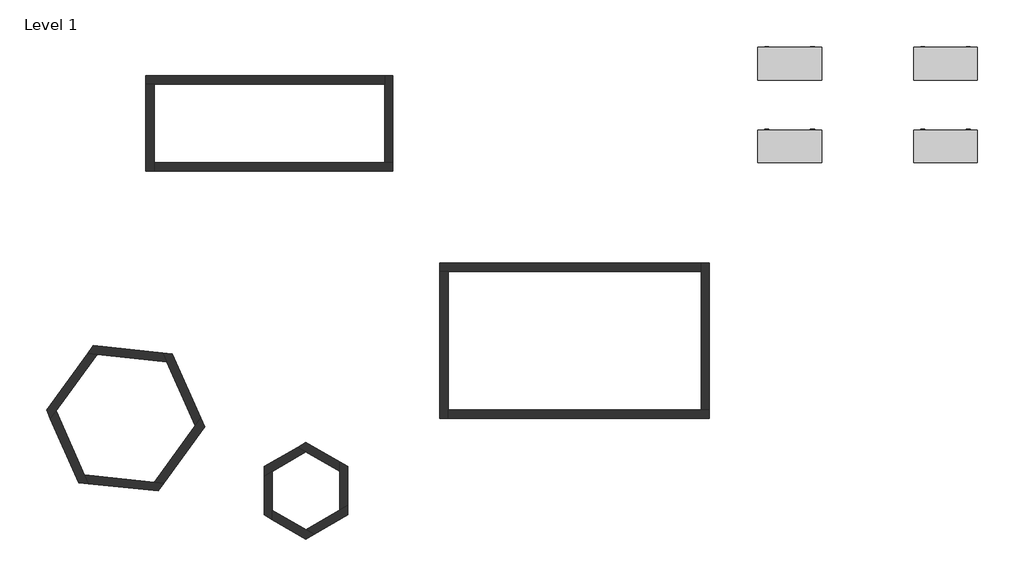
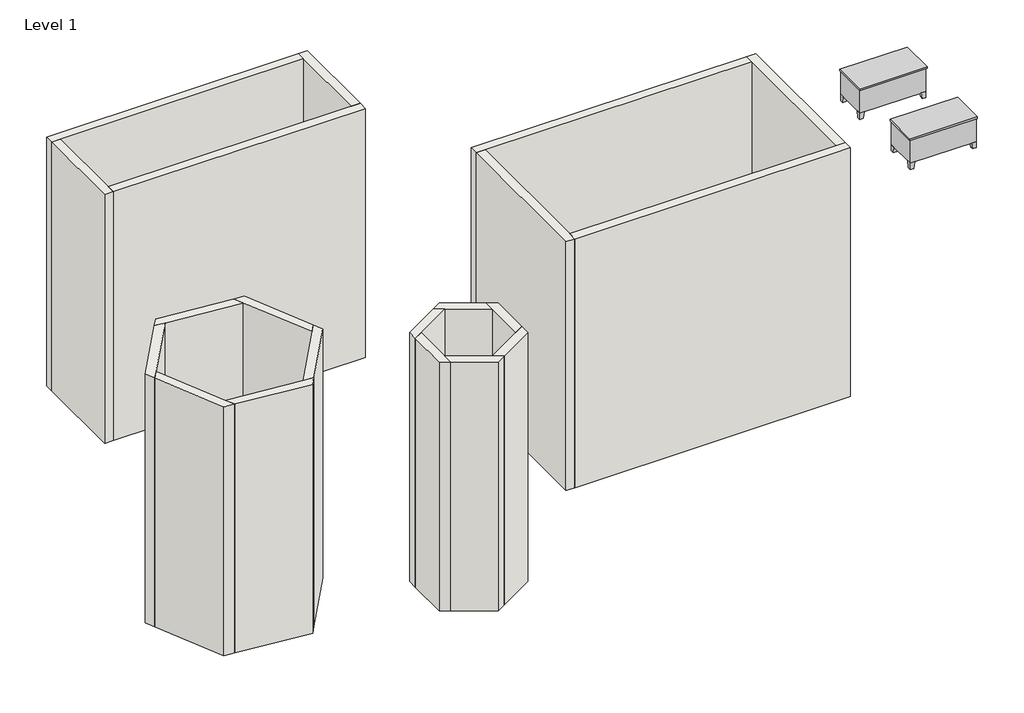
# One storey: 20 walls, 4 furniture elements.
"""IFC4 building model written with IfcOpenShell, lengths in millimetres."""

import ifcopenshell
import ifcopenshell.guid

model = None  # the IFC model being written
_history = None  # IfcOwnerHistory: only IFC2X3 demands one
_inside = {}  # id of a spatial element -> (the spatial element, [elements in it])
_under = {}  # id of a project, library or spatial element -> (it, [spatial elements below it])
_declared = {}  # id of a project -> (the project, [libraries it declares])
_typed = {}  # id of a type object -> (the type object, [elements of that type])
_made_of = {}  # id of a material, layer set ... -> (it, [elements and type objects made of it])


def new_model(schema):
    """Start an empty IFC model of exactly this schema.

    Asked for "IFC4X3", IfcOpenShell would pick the latest addendum, in which some entities
    have other attributes; the version numbers below select the first issue.
    IFC2X3 requires an IfcOwnerHistory on every rooted entity: one is made here for all.
    """
    global model, _history
    if schema == "IFC4X3":
        model = ifcopenshell.file(schema_version=(4, 3, 0, 0))
    else:
        model = ifcopenshell.file(schema=schema)
    _inside.clear()
    _under.clear()
    _declared.clear()
    _typed.clear()
    _made_of.clear()
    _history = None
    if model.schema == "IFC2X3":
        org = make("IfcOrganization", Name="unknown")
        user = make(
            "IfcPersonAndOrganization",
            ThePerson=make("IfcPerson", FamilyName="unknown"),
            TheOrganization=org,
        )
        app = make(
            "IfcApplication",
            ApplicationDeveloper=org,
            Version="unknown",
            ApplicationFullName="unknown",
            ApplicationIdentifier="unknown",
        )
        _history = make(
            "IfcOwnerHistory",
            OwningUser=user,
            OwningApplication=app,
            ChangeAction="ADDED",
            CreationDate=0,
        )
    return model


def make(cls, **values):
    """One entity of the class cls with the attributes given. An attribute that is None is left unset."""
    return model.create_entity(
        cls, **{name: value for name, value in values.items() if value is not None}
    )


def rooted(cls, **values):
    """An entity with a GlobalId (a new one), such as an element, a storey or a relation."""
    return make(cls, GlobalId=ifcopenshell.guid.new(), OwnerHistory=_history, **values)


def si_unit(unit_type, name, prefix=None):
    """IfcSIUnit, for example si_unit("LENGTHUNIT", "METRE", prefix="MILLI")."""
    return make("IfcSIUnit", UnitType=unit_type, Prefix=prefix, Name=name)


def assignment(units):
    """IfcUnitAssignment: the units of a project."""
    return None if units is None else make("IfcUnitAssignment", Units=units)


def point(xyz):
    """IfcCartesianPoint."""
    return None if xyz is None else make("IfcCartesianPoint", Coordinates=xyz)


def direction(xyz):
    """IfcDirection."""
    return None if xyz is None else make("IfcDirection", DirectionRatios=xyz)


def frame(location, z_axis=None, x_axis=None):
    """IfcAxis2Placement3D, a coordinate frame: its origin and axes. An axis left out is left unset."""
    return make(
        "IfcAxis2Placement3D",
        Location=point(location),
        Axis=direction(z_axis),
        RefDirection=direction(x_axis),
    )


def origin():
    """The frame at (0, 0, 0) with its axes left unset."""
    return frame((0.0, 0.0, 0.0))


def place(relative_to, where):
    """IfcLocalPlacement: puts the frame where relative to a parent placement (None: the world)."""
    return make(
        "IfcLocalPlacement", PlacementRelTo=relative_to, RelativePlacement=where
    )


def context(
    kind, dimensions, precision=None, world=None, true_north=None, identifier=None
):
    """IfcGeometricRepresentationContext, for example the 3D "Model" context."""
    return make(
        "IfcGeometricRepresentationContext",
        ContextIdentifier=identifier,
        ContextType=kind,
        CoordinateSpaceDimension=dimensions,
        Precision=precision,
        WorldCoordinateSystem=world,
        TrueNorth=true_north,
    )


def project(units=None, contexts=None):
    """IfcProject with its units and contexts."""
    return rooted(
        "IfcProject",
        Name="project",
        RepresentationContexts=contexts,
        UnitsInContext=assignment(units),
    )


def spatial(cls, under=None, at=None, **own):
    """A site, building, storey or space (cls), placed at a placement, below another one or the project."""
    s = rooted(cls, ObjectPlacement=at, **own)
    if under is not None:
        _under.setdefault(under.id(), (under, []))[1].append(s)
    return s


def polyline(points):
    """IfcPolyline through the points."""
    return make("IfcPolyline", Points=[point(p) for p in points])


def outline(outer, holes=None, kind="AREA"):
    """IfcArbitraryClosedProfileDef: a profile drawn as a closed curve; with holes, ...WithVoids."""
    if holes is None:
        return make("IfcArbitraryClosedProfileDef", ProfileType=kind, OuterCurve=outer)
    return make(
        "IfcArbitraryProfileDefWithVoids",
        ProfileType=kind,
        OuterCurve=outer,
        InnerCurves=holes,
    )


def extrude(swept, where, along, depth):
    """IfcExtrudedAreaSolid: the profile swept, set in the frame where, extruded along a direction by depth."""
    return make(
        "IfcExtrudedAreaSolid",
        SweptArea=swept,
        Position=where,
        ExtrudedDirection=direction(along),
        Depth=depth,
    )


def faces_of(points, faces, orient=None, outer=None):
    """IfcFace entities. A face is a list of loops; a loop is a list of indices into points, from 0.

    orient and outer hold one flag for each loop. By default every Orientation is true, the
    first loop of a face is its IfcFaceOuterBound and the others are IfcFaceBound.
    """
    made = []
    for i, loops in enumerate(faces):
        bounds = []
        for j, loop in enumerate(loops):
            is_outer = j == 0 if outer is None else outer[i][j]
            bounds.append(
                make(
                    "IfcFaceOuterBound" if is_outer else "IfcFaceBound",
                    Bound=make("IfcPolyLoop", Polygon=[points[k] for k in loop]),
                    Orientation=True if orient is None else orient[i][j],
                )
            )
        made.append(make("IfcFace", Bounds=bounds))
    return made


def faceted_brep(points, faces, orient=None, outer=None, voids=None):
    """IfcFacetedBrep: a solid bounded by flat faces; with voids (closed shells), ...WithVoids."""
    shared = [point(p) for p in points]
    hull = make("IfcClosedShell", CfsFaces=faces_of(shared, faces, orient, outer))
    if voids is None:
        return make("IfcFacetedBrep", Outer=hull)
    return make(
        "IfcFacetedBrepWithVoids",
        Outer=hull,
        Voids=[
            make(cls, CfsFaces=faces_of(shared, fs, o, b)) for cls, fs, o, b in voids
        ],
    )


def shape(context_of_items, identifier, shape_type, items):
    """IfcShapeRepresentation: the items that make up one representation, for example the "Body"."""
    return make(
        "IfcShapeRepresentation",
        ContextOfItems=context_of_items,
        RepresentationIdentifier=identifier,
        RepresentationType=shape_type,
        Items=items,
    )


def source(mapping_origin, context_of_items, identifier, shape_type, items):
    """IfcRepresentationMap: a shape defined once, which mapped items show again and again."""
    return make(
        "IfcRepresentationMap",
        MappingOrigin=mapping_origin,
        MappedRepresentation=shape(context_of_items, identifier, shape_type, items),
    )


def transform(
    local_origin,
    x_axis=None,
    y_axis=None,
    z_axis=None,
    scale=None,
    scale2=None,
    scale3=None,
    uniform=True,
):
    """IfcCartesianTransformationOperator3D, or its non-uniform kind. x_axis, y_axis, z_axis: its Axis1, 2, 3."""
    if uniform:
        return make(
            "IfcCartesianTransformationOperator3D",
            Axis1=direction(x_axis),
            Axis2=direction(y_axis),
            LocalOrigin=point(local_origin),
            Scale=scale,
            Axis3=direction(z_axis),
        )
    return make(
        "IfcCartesianTransformationOperator3DnonUniform",
        Axis1=direction(x_axis),
        Axis2=direction(y_axis),
        LocalOrigin=point(local_origin),
        Scale=scale,
        Axis3=direction(z_axis),
        Scale2=scale2,
        Scale3=scale3,
    )


def mapped(mapping_source, mapping_target):
    """IfcMappedItem: shows the shape of a source again, moved by a transform."""
    return make(
        "IfcMappedItem", MappingSource=mapping_source, MappingTarget=mapping_target
    )


def made_of(thing, what):
    """Note that an element or type object is made of a material, layer set ...; save() writes the relation."""
    if what is not None:
        _made_of.setdefault(what.id(), (what, []))[1].append(thing)
    return thing


def element(
    cls,
    number,
    at=None,
    inside=None,
    cuts=None,
    type_object=None,
    material=None,
    context=None,
    identifier="Body",
    shape_type=None,
    held_by="IfcProductDefinitionShape",
    body=None,
    shapes=None,
    **own,
):
    """One element of the class cls, such as IfcWall. Its Tag is "e" and its number.

    at: its placement. inside: the storey or other place that contains it. cuts: it is an
    opening in that element (IfcRelVoidsElement). A single representation is given by context,
    identifier, shape_type and body (its items); several are given by shapes. held_by: the class
    of the entity that holds the representations. save() writes the other relations.
    """
    e = rooted(cls, Tag="e%d" % number, ObjectPlacement=at, **own)
    if body is not None:
        shapes = [shape(context, identifier, shape_type, body)]
    if shapes is not None:
        e.Representation = make(held_by, Representations=shapes)
    if inside is not None:
        _inside.setdefault(inside.id(), (inside, []))[1].append(e)
    if cuts is not None:
        rooted(
            "IfcRelVoidsElement", RelatingBuildingElement=cuts, RelatedOpeningElement=e
        )
    if type_object is not None:
        _typed.setdefault(type_object.id(), (type_object, []))[1].append(e)
    return made_of(e, material)


def aggregate(whole, parts):
    """IfcRelAggregates: a whole, such as a stair, and the parts it consists of."""
    return rooted("IfcRelAggregates", RelatingObject=whole, RelatedObjects=parts)


def save(model, path):
    """Write the relations noted so far, then the file.

    IfcRelAggregates (storeys below a building ...), IfcRelContainedInSpatialStructure (elements
    in a storey), IfcRelDefinesByType, IfcRelAssociatesMaterial and IfcRelDeclares: one each for
    every whole, place, type object, material and project.
    """
    for whole, parts in _under.values():
        aggregate(whole, parts)
    for where, things in _inside.values():
        rooted(
            "IfcRelContainedInSpatialStructure",
            RelatedElements=things,
            RelatingStructure=where,
        )
    for kind, things in _typed.values():
        rooted("IfcRelDefinesByType", RelatedObjects=things, RelatingType=kind)
    for what, things in _made_of.values():
        rooted("IfcRelAssociatesMaterial", RelatedObjects=things, RelatingMaterial=what)
    for by, libraries in _declared.values():
        rooted("IfcRelDeclares", RelatingContext=by, RelatedDefinitions=libraries)
    model.write(path)


def furniture_072f6425(model_context):
    return source(origin(), model_context, "Body", "SolidModel", [
        extrude(outline(polyline([(1504.95, 762.0), (1136.65, 762.0), (1136.65, 774.7), (1504.95, 774.7), (1504.95, 762.0)])), frame((0.0, 0.0, 603.25), z_axis=(0.0, 0.0, 1.0), x_axis=(1.0, 0.0, 0.0)), (0.0, 0.0, 1.0), 101.6),
        extrude(outline(polyline([(1504.95, 762.0), (1136.65, 762.0), (1136.65, 774.7), (1504.95, 774.7), (1504.95, 762.0)])), frame((0.0, 0.0, 171.45), z_axis=(0.0, 0.0, 1.0), x_axis=(1.0, 0.0, 0.0)), (0.0, 0.0, 1.0), 412.75),
        extrude(outline(polyline([(387.35, 762.0), (19.05, 762.0), (19.05, 774.7), (387.35, 774.7), (387.35, 762.0)])), frame((0.0, 0.0, 603.25), z_axis=(0.0, 0.0, 1.0), x_axis=(1.0, 0.0, 0.0)), (0.0, 0.0, 1.0), 101.6),
        extrude(outline(polyline([(387.35, 762.0), (19.05, 762.0), (19.05, 774.7), (387.35, 774.7), (387.35, 762.0)])), frame((0.0, 0.0, 171.45), z_axis=(0.0, 0.0, 1.0), x_axis=(1.0, 0.0, 0.0)), (0.0, 0.0, 1.0), 171.45),
        extrude(outline(polyline([(387.35, 762.0), (19.05, 762.0), (19.05, 774.7), (387.35, 774.7), (387.35, 762.0)])), frame((0.0, 0.0, 482.6), z_axis=(0.0, 0.0, 1.0), x_axis=(1.0, 0.0, 0.0)), (0.0, 0.0, 1.0), 101.6),
        extrude(outline(polyline([(387.35, 762.0), (19.05, 762.0), (19.05, 774.7), (387.35, 774.7), (387.35, 762.0)])), frame((0.0, 0.0, 361.95), z_axis=(0.0, 0.0, 1.0), x_axis=(1.0, 0.0, 0.0)), (0.0, 0.0, 1.0), 101.6),
        faceted_brep([(1422.4, 762.0, 152.4), (1422.4, 660.4, 152.4), (1524.0, 660.4, 152.4), (1524.0, 762.0, 152.4), (1447.8, 762.0, 0.0), (1524.0, 762.0, 0.0), (1524.0, 685.8, 0.0), (1447.8, 685.8, 0.0)], [[[0, 1, 2, 3]], [[4, 5, 6, 7]], [[4, 7, 1, 0]], [[7, 6, 2, 1]], [[6, 5, 3, 2]], [[5, 4, 0, 3]]]),
        faceted_brep([(1422.4, 0.0, 152.4), (1524.0, 0.0, 152.4), (1524.0, 101.6, 152.4), (1422.4, 101.6, 152.4), (1447.8, 0.0, 0.0), (1447.8, 76.2, 0.0), (1524.0, 76.2, 0.0), (1524.0, 0.0, 0.0)], [[[0, 1, 2, 3]], [[4, 5, 6, 7]], [[4, 7, 1, 0]], [[7, 6, 2, 1]], [[6, 5, 3, 2]], [[5, 4, 0, 3]]]),
        faceted_brep([(101.6, 0.0, 152.4), (101.6, 101.6, 152.4), (0.0, 101.6, 152.4), (0.0, 0.0, 152.4), (76.2, 0.0, 0.0), (0.0, 0.0, 0.0), (0.0, 76.2, 0.0), (76.2, 76.2, 0.0)], [[[0, 1, 2, 3]], [[4, 5, 6, 7]], [[4, 7, 1, 0]], [[7, 6, 2, 1]], [[6, 5, 3, 2]], [[5, 4, 0, 3]]]),
        faceted_brep([(101.6, 762.0, 152.4), (0.0, 762.0, 152.4), (0.0, 660.4, 152.4), (101.6, 660.4, 152.4), (76.2, 762.0, 0.0), (76.2, 685.8, 0.0), (0.0, 685.8, 0.0), (0.0, 762.0, 0.0)], [[[0, 1, 2, 3]], [[4, 5, 6, 7]], [[4, 7, 1, 0]], [[7, 6, 2, 1]], [[6, 5, 3, 2]], [[5, 4, 0, 3]]]),
        extrude(outline(polyline([(1543.05, 781.05), (1543.05, -19.05), (-19.05, -19.05), (-19.05, 781.05), (1543.05, 781.05)])), frame((0.0, 0.0, 723.9), z_axis=(0.0, 0.0, 1.0), x_axis=(1.0, 0.0, 0.0)), (0.0, 0.0, 1.0), 38.1),
        extrude(outline(polyline([(406.4, 762.0), (406.4, 50.8), (1117.6, 50.8), (1117.6, 762.0), (1524.0, 762.0), (1524.0, 0.0), (0.0, 0.0), (0.0, 762.0), (406.4, 762.0)])), frame((0.0, 0.0, 152.4), z_axis=(0.0, 0.0, 1.0), x_axis=(1.0, 0.0, 0.0)), (0.0, 0.0, 1.0), 571.5),
        faceted_brep([(1365.25, 774.7, 546.1), (1365.25, 774.7, 533.4), (1371.6, 774.7, 533.4), (1371.6, 774.7, 546.1), (1365.25, 793.75, 546.1), (1365.25, 793.75, 533.4), (1371.6, 800.1, 533.4), (1371.6, 800.1, 546.1), (1276.35, 793.75, 546.1), (1276.35, 793.75, 533.4), (1270.0, 800.1, 533.4), (1270.0, 800.1, 546.1), (1276.35, 774.7, 546.1), (1270.0, 774.7, 546.1), (1270.0, 774.7, 533.4), (1276.35, 774.7, 533.4)], [[[0, 1, 2, 3]], [[1, 0, 4, 5]], [[2, 1, 5, 6]], [[3, 2, 6, 7]], [[0, 3, 7, 4]], [[5, 4, 8, 9]], [[6, 5, 9, 10]], [[7, 6, 10, 11]], [[4, 7, 11, 8]], [[12, 13, 14, 15]], [[9, 8, 12, 15]], [[10, 9, 15, 14]], [[11, 10, 14, 13]], [[8, 11, 13, 12]]]),
        faceted_brep([(1365.25, 774.7, 666.75), (1365.25, 774.7, 654.05), (1371.6, 774.7, 654.05), (1371.6, 774.7, 666.75), (1365.25, 793.75, 666.75), (1365.25, 793.75, 654.05), (1371.6, 800.1, 654.05), (1371.6, 800.1, 666.75), (1276.35, 793.75, 666.75), (1276.35, 793.75, 654.05), (1270.0, 800.1, 654.05), (1270.0, 800.1, 666.75), (1276.35, 774.7, 666.75), (1270.0, 774.7, 666.75), (1270.0, 774.7, 654.05), (1276.35, 774.7, 654.05)], [[[0, 1, 2, 3]], [[1, 0, 4, 5]], [[2, 1, 5, 6]], [[3, 2, 6, 7]], [[0, 3, 7, 4]], [[5, 4, 8, 9]], [[6, 5, 9, 10]], [[7, 6, 10, 11]], [[4, 7, 11, 8]], [[12, 13, 14, 15]], [[9, 8, 12, 15]], [[10, 9, 15, 14]], [[11, 10, 14, 13]], [[8, 11, 13, 12]]]),
        faceted_brep([(158.75, 774.7, 304.8), (152.4, 774.7, 304.8), (152.4, 774.7, 292.1), (158.75, 774.7, 292.1), (158.75, 793.75, 304.8), (152.4, 800.1, 304.8), (152.4, 800.1, 292.1), (158.75, 793.75, 292.1), (247.65, 793.75, 304.8), (254.0, 800.1, 304.8), (254.0, 800.1, 292.1), (247.65, 793.75, 292.1), (247.65, 774.7, 304.8), (247.65, 774.7, 292.1), (254.0, 774.7, 292.1), (254.0, 774.7, 304.8)], [[[0, 1, 2, 3]], [[1, 0, 4, 5]], [[2, 1, 5, 6]], [[3, 2, 6, 7]], [[0, 3, 7, 4]], [[5, 4, 8, 9]], [[6, 5, 9, 10]], [[7, 6, 10, 11]], [[4, 7, 11, 8]], [[12, 13, 14, 15]], [[9, 8, 12, 15]], [[10, 9, 15, 14]], [[11, 10, 14, 13]], [[8, 11, 13, 12]]]),
        faceted_brep([(158.75, 774.7, 425.45), (152.4, 774.7, 425.45), (152.4, 774.7, 412.75), (158.75, 774.7, 412.75), (158.75, 793.75, 425.45), (152.4, 800.1, 425.45), (152.4, 800.1, 412.75), (158.75, 793.75, 412.75), (247.65, 793.75, 425.45), (254.0, 800.1, 425.45), (254.0, 800.1, 412.75), (247.65, 793.75, 412.75), (247.65, 774.7, 425.45), (247.65, 774.7, 412.75), (254.0, 774.7, 412.75), (254.0, 774.7, 425.45)], [[[0, 1, 2, 3]], [[1, 0, 4, 5]], [[2, 1, 5, 6]], [[3, 2, 6, 7]], [[0, 3, 7, 4]], [[5, 4, 8, 9]], [[6, 5, 9, 10]], [[7, 6, 10, 11]], [[4, 7, 11, 8]], [[12, 13, 14, 15]], [[9, 8, 12, 15]], [[10, 9, 15, 14]], [[11, 10, 14, 13]], [[8, 11, 13, 12]]]),
        faceted_brep([(158.75, 774.7, 546.1), (152.4, 774.7, 546.1), (152.4, 774.7, 533.4), (158.75, 774.7, 533.4), (158.75, 793.75, 546.1), (152.4, 800.1, 546.1), (152.4, 800.1, 533.4), (158.75, 793.75, 533.4), (247.65, 793.75, 546.1), (254.0, 800.1, 546.1), (254.0, 800.1, 533.4), (247.65, 793.75, 533.4), (247.65, 774.7, 546.1), (247.65, 774.7, 533.4), (254.0, 774.7, 533.4), (254.0, 774.7, 546.1)], [[[0, 1, 2, 3]], [[1, 0, 4, 5]], [[2, 1, 5, 6]], [[3, 2, 6, 7]], [[0, 3, 7, 4]], [[5, 4, 8, 9]], [[6, 5, 9, 10]], [[7, 6, 10, 11]], [[4, 7, 11, 8]], [[12, 13, 14, 15]], [[9, 8, 12, 15]], [[10, 9, 15, 14]], [[11, 10, 14, 13]], [[8, 11, 13, 12]]]),
        faceted_brep([(158.75, 774.7, 666.75), (152.4, 774.7, 666.75), (152.4, 774.7, 654.05), (158.75, 774.7, 654.05), (158.75, 793.75, 666.75), (152.4, 800.1, 666.75), (152.4, 800.1, 654.05), (158.75, 793.75, 654.05), (247.65, 793.75, 666.75), (254.0, 800.1, 666.75), (254.0, 800.1, 654.05), (247.65, 793.75, 654.05), (247.65, 774.7, 666.75), (247.65, 774.7, 654.05), (254.0, 774.7, 654.05), (254.0, 774.7, 666.75)], [[[0, 1, 2, 3]], [[1, 0, 4, 5]], [[2, 1, 5, 6]], [[3, 2, 6, 7]], [[0, 3, 7, 4]], [[5, 4, 8, 9]], [[6, 5, 9, 10]], [[7, 6, 10, 11]], [[4, 7, 11, 8]], [[12, 13, 14, 15]], [[9, 8, 12, 15]], [[10, 9, 15, 14]], [[11, 10, 14, 13]], [[8, 11, 13, 12]]]),
    ])


model = new_model("IFC4")

# Units and contexts
model_context = context("Model", 3, world=origin())
ifc_project = project(units=[si_unit("LENGTHUNIT", "METRE", prefix="MILLI")], contexts=[model_context])

# Site, building, storey
site = spatial("IfcSite", under=ifc_project)
building = spatial("IfcBuilding", under=site)
storey = spatial("IfcBuildingStorey", under=building, Name="Level 1", Elevation=0.0)

# Furniture
placement = place(None, origin())
furniture_shape = furniture_072f6425(model_context)
element("IfcFurniture", 1, ObjectType="Desk : 60\" x 30\" Student", at=placement, inside=storey, context=model_context, shape_type="MappedRepresentation", body=[
    mapped(furniture_shape, transform((16710.7760043, 9831.0518822, 0.0), x_axis=(1.0, 0.0, 0.0), y_axis=(0.0, 1.0, 0.0), z_axis=(0.0, 0.0, 1.0))),
])
element("IfcFurniture", 2, ObjectType="Desk : 60\" x 30\" Student", at=placement, inside=storey, context=model_context, shape_type="MappedRepresentation", body=[
    mapped(furniture_shape, transform((20520.7760043, 9831.0518822, 0.0), x_axis=(1.0, 0.0, 0.0), y_axis=(0.0, 1.0, 0.0), z_axis=(0.0, 0.0, 1.0))),
])
element("IfcFurniture", 3, ObjectType="Desk : 60\" x 30\" Student", at=placement, inside=storey, context=model_context, shape_type="MappedRepresentation", body=[
    mapped(furniture_shape, transform((16710.7760043, 11854.6225273, 0.0), x_axis=(1.0, 0.0, 0.0), y_axis=(0.0, 1.0, 0.0), z_axis=(0.0, 0.0, 1.0))),
])
element("IfcFurniture", 4, ObjectType="Desk : 60\" x 30\" Student", at=placement, inside=storey, context=model_context, shape_type="MappedRepresentation", body=[
    mapped(furniture_shape, transform((20520.7760043, 11854.6225273, 0.0), x_axis=(1.0, 0.0, 0.0), y_axis=(0.0, 1.0, 0.0), z_axis=(0.0, 0.0, 1.0))),
])

# Walls
element("IfcWall", 5, ObjectType="Wall 1", at=placement, inside=storey, context=model_context, shape_type="Brep", body=[
    faceted_brep([(2168.4076616, 1967.9204062, 0.0), (3174.3917908, 3352.5387738, 0.0), (3174.3917908, 3352.5387738, 6096.0), (2168.4076616, 1967.9204062, 6096.0), (1935.0578681, 1992.4464578, 0.0), (1935.0578681, 1992.4464578, 6096.0), (2941.0419973, 3377.0648254, 6096.0), (3078.9570778, 3566.8886488, 6096.0), (3078.9570778, 3566.8886488, 0.0), (2941.0419973, 3377.0648254, 0.0)], [[[0, 1, 2, 3]], [[4, 5, 6, 7, 8, 9]], [[1, 0, 4, 9, 8]], [[3, 2, 7, 6, 5]], [[2, 1, 8, 7]], [[0, 3, 5, 4]]]),
])
element("IfcWall", 6, ObjectType="Wall 1", at=placement, inside=storey, context=model_context, shape_type="Brep", body=[
    faceted_brep([(3078.9570778, 3566.8886488, 0.0), (2382.8344614, 5130.4056442, 0.0), (2382.8344614, 5130.4056442, 6096.0), (3078.9570778, 3566.8886488, 6096.0), (2941.0419973, 3377.0648254, 0.0), (2941.0419973, 3377.0648254, 6096.0), (2244.9193809, 4940.5818209, 6096.0), (2149.4846679, 5154.9316958, 6096.0), (2149.4846679, 5154.9316958, 0.0), (2244.9193809, 4940.5818209, 0.0)], [[[0, 1, 2, 3]], [[4, 5, 6, 7, 8, 9]], [[1, 0, 4, 9, 8]], [[3, 2, 7, 6, 5]], [[2, 1, 8, 7]], [[0, 3, 5, 4]]]),
])
element("IfcWall", 7, ObjectType="Wall 1", at=placement, inside=storey, context=model_context, shape_type="Brep", body=[
    faceted_brep([(2149.4846679, 5154.9316958, 0.0), (447.3779224, 5333.8303236, 0.0), (447.3779224, 5333.8303236, 6096.0), (2149.4846679, 5154.9316958, 6096.0), (2244.9193809, 4940.5818209, 0.0), (2244.9193809, 4940.5818209, 6096.0), (542.8126354, 5119.4804487, 6096.0), (309.4628419, 5144.0065003, 6096.0), (309.4628419, 5144.0065003, 0.0), (542.8126354, 5119.4804487, 0.0)], [[[0, 1, 2, 3]], [[4, 5, 6, 7, 8, 9]], [[1, 0, 4, 9, 8]], [[3, 2, 7, 6, 5]], [[2, 1, 8, 7]], [[0, 3, 5, 4]]]),
])
element("IfcWall", 8, ObjectType="Wall 1", at=placement, inside=storey, context=model_context, shape_type="Brep", body=[
    faceted_brep([(309.4628419, 5144.0065003, 0.0), (-696.5212872, 3759.3881327, 0.0), (-696.5212872, 3759.3881327, 6096.0), (309.4628419, 5144.0065003, 6096.0), (542.8126354, 5119.4804487, 0.0), (542.8126354, 5119.4804487, 6096.0), (-463.1714937, 3734.8620811, 6096.0), (-601.0865742, 3545.0382577, 6096.0), (-601.0865742, 3545.0382577, 0.0), (-463.1714937, 3734.8620811, 0.0)], [[[0, 1, 2, 3]], [[4, 5, 6, 7, 8, 9]], [[1, 0, 4, 9, 8]], [[3, 2, 7, 6, 5]], [[2, 1, 8, 7]], [[0, 3, 5, 4]]]),
])
element("IfcWall", 9, ObjectType="Wall 1", at=placement, inside=storey, context=model_context, shape_type="Brep", body=[
    faceted_brep([(-601.0865742, 3545.0382577, 0.0), (95.0360422, 1981.5212623, 0.0), (95.0360422, 1981.5212623, 6096.0), (-601.0865742, 3545.0382577, 6096.0), (-463.1714937, 3734.8620811, 0.0), (-463.1714937, 3734.8620811, 6096.0), (232.9511226, 2171.3450856, 6096.0), (328.3858357, 1956.9952107, 6096.0), (328.3858357, 1956.9952107, 0.0), (232.9511226, 2171.3450856, 0.0)], [[[0, 1, 2, 3]], [[4, 5, 6, 7, 8, 9]], [[1, 0, 4, 9, 8]], [[3, 2, 7, 6, 5]], [[2, 1, 8, 7]], [[0, 3, 5, 4]]]),
])
element("IfcWall", 10, ObjectType="Wall 1", at=placement, inside=storey, context=model_context, shape_type="Brep", body=[
    faceted_brep([(328.3858357, 1956.9952107, 0.0), (2030.4925812, 1778.0965828, 0.0), (2030.4925812, 1778.0965828, 6096.0), (328.3858357, 1956.9952107, 6096.0), (232.9511226, 2171.3450856, 0.0), (232.9511226, 2171.3450856, 6096.0), (1935.0578681, 1992.4464578, 6096.0), (2168.4076616, 1967.9204062, 6096.0), (2168.4076616, 1967.9204062, 0.0), (1935.0578681, 1992.4464578, 0.0)], [[[0, 1, 2, 3]], [[4, 5, 6, 7, 8, 9]], [[1, 0, 4, 9, 8]], [[3, 2, 7, 6, 5]], [[2, 1, 8, 7]], [[0, 3, 5, 4]]]),
])
element("IfcWall", 11, ObjectType="Wall 1", at=placement, inside=storey, context=model_context, shape_type="Brep", body=[
    faceted_brep([(5849.0169784, 716.28, 0.0), (6671.2928792, 1191.0212127, 0.0), (6671.2928792, 1191.0212127, 6096.0), (5849.0169784, 716.28, 6096.0), (5645.8169784, 833.5975747, 0.0), (5645.8169784, 833.5975747, 6096.0), (6468.0928792, 1308.3387873, 6096.0), (6671.2928792, 1425.656362, 6096.0), (6671.2928792, 1425.656362, 0.0), (6468.0928792, 1308.3387873, 0.0)], [[[0, 1, 2, 3]], [[4, 5, 6, 7, 8, 9]], [[1, 0, 4, 9, 8]], [[3, 2, 7, 6, 5]], [[2, 1, 8, 7]], [[0, 3, 5, 4]]]),
])
element("IfcWall", 12, ObjectType="Wall 1", at=placement, inside=storey, context=model_context, shape_type="Brep", body=[
    faceted_brep([(6671.2928792, 1425.656362, 0.0), (6671.2928792, 2375.1387873, 0.0), (6671.2928792, 2375.1387873, 6096.0), (6671.2928792, 1425.656362, 6096.0), (6468.0928792, 1308.3387873, 0.0), (6468.0928792, 1308.3387873, 6096.0), (6468.0928792, 2257.8212127, 6096.0), (6468.0928792, 2492.456362, 6096.0), (6468.0928792, 2492.456362, 0.0), (6468.0928792, 2257.8212127, 0.0)], [[[0, 1, 2, 3]], [[4, 5, 6, 7, 8, 9]], [[1, 0, 4, 9, 8]], [[3, 2, 7, 6, 5]], [[2, 1, 8, 7]], [[0, 3, 5, 4]]]),
])
element("IfcWall", 13, ObjectType="Wall 1", at=placement, inside=storey, context=model_context, shape_type="Brep", body=[
    faceted_brep([(6468.0928792, 2492.456362, 0.0), (5645.8169784, 2967.1975747, 0.0), (5645.8169784, 2967.1975747, 6096.0), (6468.0928792, 2492.456362, 6096.0), (6468.0928792, 2257.8212127, 0.0), (6468.0928792, 2257.8212127, 6096.0), (5645.8169784, 2732.5624253, 6096.0), (5442.6169784, 2849.88, 6096.0), (5442.6169784, 2849.88, 0.0), (5645.8169784, 2732.5624253, 0.0)], [[[0, 1, 2, 3]], [[4, 5, 6, 7, 8, 9]], [[1, 0, 4, 9, 8]], [[3, 2, 7, 6, 5]], [[2, 1, 8, 7]], [[0, 3, 5, 4]]]),
])
element("IfcWall", 14, ObjectType="Wall 1", at=placement, inside=storey, context=model_context, shape_type="Brep", body=[
    faceted_brep([(5442.6169784, 2849.88, 0.0), (4620.3410777, 2375.1387873, 0.0), (4620.3410777, 2375.1387873, 6096.0), (5442.6169784, 2849.88, 6096.0), (5645.8169784, 2732.5624253, 0.0), (5645.8169784, 2732.5624253, 6096.0), (4823.5410777, 2257.8212127, 6096.0), (4620.3410777, 2140.503638, 6096.0), (4620.3410777, 2140.503638, 0.0), (4823.5410777, 2257.8212127, 0.0)], [[[0, 1, 2, 3]], [[4, 5, 6, 7, 8, 9]], [[1, 0, 4, 9, 8]], [[3, 2, 7, 6, 5]], [[2, 1, 8, 7]], [[0, 3, 5, 4]]]),
])
element("IfcWall", 15, ObjectType="Wall 1", at=placement, inside=storey, context=model_context, shape_type="Brep", body=[
    faceted_brep([(4620.3410777, 2140.503638, 0.0), (4620.3410777, 1191.0212127, 0.0), (4620.3410777, 1191.0212127, 6096.0), (4620.3410777, 2140.503638, 6096.0), (4823.5410777, 2257.8212127, 0.0), (4823.5410777, 2257.8212127, 6096.0), (4823.5410777, 1308.3387873, 6096.0), (4823.5410777, 1073.703638, 6096.0), (4823.5410777, 1073.703638, 0.0), (4823.5410777, 1308.3387873, 0.0)], [[[0, 1, 2, 3]], [[4, 5, 6, 7, 8, 9]], [[1, 0, 4, 9, 8]], [[3, 2, 7, 6, 5]], [[2, 1, 8, 7]], [[0, 3, 5, 4]]]),
])
element("IfcWall", 16, ObjectType="Wall 1", at=placement, inside=storey, context=model_context, shape_type="Brep", body=[
    faceted_brep([(4823.5410777, 1073.703638, 0.0), (5645.8169784, 598.9624253, 0.0), (5645.8169784, 598.9624253, 6096.0), (4823.5410777, 1073.703638, 6096.0), (4823.5410777, 1308.3387873, 0.0), (4823.5410777, 1308.3387873, 6096.0), (5645.8169784, 833.5975747, 6096.0), (5849.0169784, 716.28, 6096.0), (5849.0169784, 716.28, 0.0), (5645.8169784, 833.5975747, 0.0)], [[[0, 1, 2, 3]], [[4, 5, 6, 7, 8, 9]], [[1, 0, 4, 9, 8]], [[3, 2, 7, 6, 5]], [[2, 1, 8, 7]], [[0, 3, 5, 4]]]),
])
element("IfcWall", 17, ObjectType="Wall 1", at=placement, inside=storey, context=model_context, shape_type="Brep", body=[
    faceted_brep([(1733.8424813, 11733.9725273, 0.0), (1937.0424813, 11733.9725273, 0.0), (7566.4652198, 11733.9725273, 0.0), (7566.4652198, 11733.9725273, 6096.0), (1937.0424813, 11733.9725273, 6096.0), (1733.8424813, 11733.9725273, 6096.0), (1733.8424813, 11937.1725273, 0.0), (1733.8424813, 11937.1725273, 6096.0), (7566.4652198, 11937.1725273, 6096.0), (7566.4652198, 11937.1725273, 0.0)], [[[0, 1, 2, 3, 4, 5]], [[6, 7, 8, 9]], [[2, 1, 0, 6, 9]], [[5, 4, 3, 8, 7]], [[0, 5, 7, 6]], [[3, 2, 9, 8]]]),
])
element("IfcWall", 18, ObjectType="Wall 1", at=placement, inside=storey, context=model_context, shape_type="Brep", body=[
    faceted_brep([(1937.0424813, 9608.8018822, 0.0), (1937.0424813, 9812.0018822, 0.0), (1937.0424813, 11733.9725273, 0.0), (1937.0424813, 11733.9725273, 6096.0), (1937.0424813, 9812.0018822, 6096.0), (1937.0424813, 9608.8018822, 6096.0), (1733.8424813, 9608.8018822, 0.0), (1733.8424813, 9608.8018822, 6096.0), (1733.8424813, 11733.9725273, 6096.0), (1733.8424813, 11733.9725273, 0.0)], [[[0, 1, 2, 3, 4, 5]], [[6, 7, 8, 9]], [[2, 1, 0, 6, 9]], [[5, 4, 3, 8, 7]], [[0, 5, 7, 6]], [[3, 2, 9, 8]]]),
])
element("IfcWall", 19, ObjectType="Wall 1", at=placement, inside=storey, context=model_context, shape_type="Brep", body=[
    faceted_brep([(7769.6652198, 9812.0018822, 0.0), (7566.4652198, 9812.0018822, 0.0), (1937.0424813, 9812.0018822, 0.0), (1937.0424813, 9812.0018822, 6096.0), (7566.4652198, 9812.0018822, 6096.0), (7769.6652198, 9812.0018822, 6096.0), (7769.6652198, 9608.8018822, 0.0), (7769.6652198, 9608.8018822, 6096.0), (1937.0424813, 9608.8018822, 6096.0), (1937.0424813, 9608.8018822, 0.0)], [[[0, 1, 2, 3, 4, 5]], [[6, 7, 8, 9]], [[2, 1, 0, 6, 9]], [[5, 4, 3, 8, 7]], [[0, 5, 7, 6]], [[3, 2, 9, 8]]]),
])
element("IfcWall", 20, ObjectType="Wall 1", at=placement, inside=storey, context=model_context, shape_type="Brep", body=[
    faceted_brep([(7566.4652198, 11937.1725273, 0.0), (7566.4652198, 11733.9725273, 0.0), (7566.4652198, 9812.0018822, 0.0), (7566.4652198, 9812.0018822, 6096.0), (7566.4652198, 11733.9725273, 6096.0), (7566.4652198, 11937.1725273, 6096.0), (7769.6652198, 11937.1725273, 0.0), (7769.6652198, 11937.1725273, 6096.0), (7769.6652198, 9812.0018822, 6096.0), (7769.6652198, 9812.0018822, 0.0)], [[[0, 1, 2, 3, 4, 5]], [[6, 7, 8, 9]], [[2, 1, 0, 6, 9]], [[5, 4, 3, 8, 7]], [[0, 5, 7, 6]], [[3, 2, 9, 8]]]),
])
element("IfcWall", 21, ObjectType="Wall 1", at=placement, inside=storey, context=model_context, shape_type="Brep", body=[
    faceted_brep([(8921.8928857, 7152.8558963, 0.0), (9125.0928857, 7152.8558963, 0.0), (15305.2308941, 7152.8558963, 0.0), (15305.2308941, 7152.8558963, 6096.0), (9125.0928857, 7152.8558963, 6096.0), (8921.8928857, 7152.8558963, 6096.0), (8921.8928857, 7356.0558963, 0.0), (8921.8928857, 7356.0558963, 6096.0), (15305.2308941, 7356.0558963, 6096.0), (15305.2308941, 7356.0558963, 0.0)], [[[0, 1, 2, 3, 4, 5]], [[6, 7, 8, 9]], [[2, 1, 0, 6, 9]], [[5, 4, 3, 8, 7]], [[0, 5, 7, 6]], [[3, 2, 9, 8]]]),
])
element("IfcWall", 22, ObjectType="Wall 1", at=placement, inside=storey, context=model_context, shape_type="Brep", body=[
    faceted_brep([(9125.0928857, 3557.7688179, 0.0), (9125.0928857, 3760.9688179, 0.0), (9125.0928857, 7152.8558963, 0.0), (9125.0928857, 7152.8558963, 6096.0), (9125.0928857, 3760.9688179, 6096.0), (9125.0928857, 3557.7688179, 6096.0), (8921.8928857, 3557.7688179, 0.0), (8921.8928857, 3557.7688179, 6096.0), (8921.8928857, 7152.8558963, 6096.0), (8921.8928857, 7152.8558963, 0.0)], [[[0, 1, 2, 3, 4, 5]], [[6, 7, 8, 9]], [[2, 1, 0, 6, 9]], [[5, 4, 3, 8, 7]], [[0, 5, 7, 6]], [[3, 2, 9, 8]]]),
])
element("IfcWall", 23, ObjectType="Wall 1", at=placement, inside=storey, context=model_context, shape_type="Brep", body=[
    faceted_brep([(15508.4308941, 3760.9688179, 0.0), (15305.2308941, 3760.9688179, 0.0), (9125.0928857, 3760.9688179, 0.0), (9125.0928857, 3760.9688179, 6096.0), (15305.2308941, 3760.9688179, 6096.0), (15508.4308941, 3760.9688179, 6096.0), (15508.4308941, 3557.7688179, 0.0), (15508.4308941, 3557.7688179, 6096.0), (9125.0928857, 3557.7688179, 6096.0), (9125.0928857, 3557.7688179, 0.0)], [[[0, 1, 2, 3, 4, 5]], [[6, 7, 8, 9]], [[2, 1, 0, 6, 9]], [[5, 4, 3, 8, 7]], [[0, 5, 7, 6]], [[3, 2, 9, 8]]]),
])
element("IfcWall", 24, ObjectType="Wall 1", at=placement, inside=storey, context=model_context, shape_type="Brep", body=[
    faceted_brep([(15305.2308941, 7356.0558963, 0.0), (15305.2308941, 7152.8558963, 0.0), (15305.2308941, 3760.9688179, 0.0), (15305.2308941, 3760.9688179, 6096.0), (15305.2308941, 7152.8558963, 6096.0), (15305.2308941, 7356.0558963, 6096.0), (15508.4308941, 7356.0558963, 0.0), (15508.4308941, 7356.0558963, 6096.0), (15508.4308941, 3760.9688179, 6096.0), (15508.4308941, 3760.9688179, 0.0)], [[[0, 1, 2, 3, 4, 5]], [[6, 7, 8, 9]], [[2, 1, 0, 6, 9]], [[5, 4, 3, 8, 7]], [[0, 5, 7, 6]], [[3, 2, 9, 8]]]),
])

save(model, "model.ifc")
